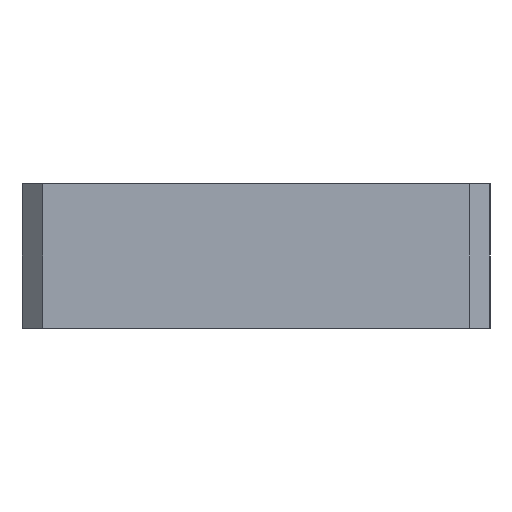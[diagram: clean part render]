
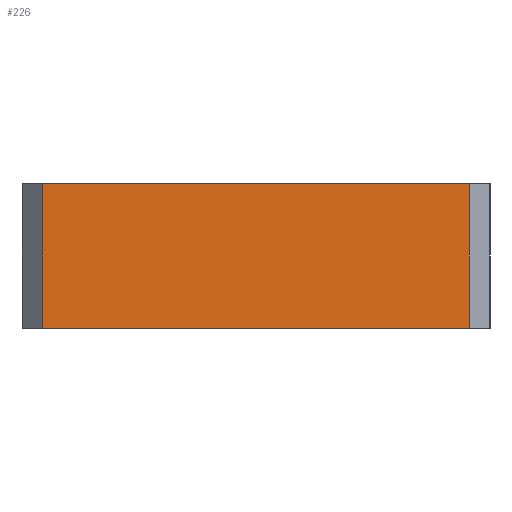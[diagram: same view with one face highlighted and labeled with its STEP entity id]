
A CAD part, left-side view. The second image highlights one B-rep face of the part: STEP entity #226.
In plain terms, the highlighted planar face has unit normal (-1, 0, 0).
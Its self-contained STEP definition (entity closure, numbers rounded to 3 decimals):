
#86 = CARTESIAN_POINT ( 'NONE',  ( -20.7, 3., 7. ) ) ;
#140 = CARTESIAN_POINT ( 'NONE',  ( -20.7, 3., 0. ) ) ;
#226 = ADVANCED_FACE ( 'NONE', ( #685 ), #1299, .F. ) ;
#261 = LINE ( 'NONE', #86, #1207 ) ;
#275 = DIRECTION ( 'NONE',  ( 0., 0., -1. ) ) ;
#311 = LINE ( 'NONE', #140, #1200 ) ;
#329 = CARTESIAN_POINT ( 'NONE',  ( -20.7, 3., 7. ) ) ;
#330 = VECTOR ( 'NONE', #1146, 1000. ) ;
#346 = AXIS2_PLACEMENT_3D ( 'NONE', #609, #443, #275 ) ;
#421 = EDGE_LOOP ( 'NONE', ( #1589, #760, #890, #1670 ) ) ;
#443 = DIRECTION ( 'NONE',  ( 1., 0., 0. ) ) ;
#470 = CARTESIAN_POINT ( 'NONE',  ( -20.7, -17.6, 7. ) ) ;
#527 = EDGE_CURVE ( 'NONE', #1090, #1353, #261, .T. ) ;
#609 = CARTESIAN_POINT ( 'NONE',  ( -20.7, 3., 7. ) ) ;
#662 = EDGE_CURVE ( 'NONE', #1280, #782, #1089, .T. ) ;
#685 = FACE_OUTER_BOUND ( 'NONE', #421, .T. ) ;
#726 = CARTESIAN_POINT ( 'NONE',  ( -20.7, 3., 0. ) ) ;
#744 = DIRECTION ( 'NONE',  ( 0., 0., -1. ) ) ;
#760 = ORIENTED_EDGE ( 'NONE', *, *, #662, .F. ) ;
#782 = VERTEX_POINT ( 'NONE', #1318 ) ;
#890 = ORIENTED_EDGE ( 'NONE', *, *, #1160, .F. ) ;
#925 = CARTESIAN_POINT ( 'NONE',  ( -20.7, -17.6, 7. ) ) ;
#959 = EDGE_CURVE ( 'NONE', #1353, #782, #311, .T. ) ;
#1089 = LINE ( 'NONE', #925, #1450 ) ;
#1090 = VERTEX_POINT ( 'NONE', #329 ) ;
#1146 = DIRECTION ( 'NONE',  ( 0., -1., 0. ) ) ;
#1160 = EDGE_CURVE ( 'NONE', #1090, #1280, #1495, .T. ) ;
#1200 = VECTOR ( 'NONE', #1643, 1000. ) ;
#1207 = VECTOR ( 'NONE', #1597, 1000. ) ;
#1280 = VERTEX_POINT ( 'NONE', #470 ) ;
#1299 = PLANE ( 'NONE',  #346 ) ;
#1318 = CARTESIAN_POINT ( 'NONE',  ( -20.7, -17.6, 0. ) ) ;
#1321 = CARTESIAN_POINT ( 'NONE',  ( -20.7, 3., 7. ) ) ;
#1353 = VERTEX_POINT ( 'NONE', #726 ) ;
#1450 = VECTOR ( 'NONE', #744, 1000. ) ;
#1495 = LINE ( 'NONE', #1321, #330 ) ;
#1589 = ORIENTED_EDGE ( 'NONE', *, *, #959, .T. ) ;
#1597 = DIRECTION ( 'NONE',  ( 0., 0., -1. ) ) ;
#1643 = DIRECTION ( 'NONE',  ( 0., -1., 0. ) ) ;
#1670 = ORIENTED_EDGE ( 'NONE', *, *, #527, .T. ) ;
